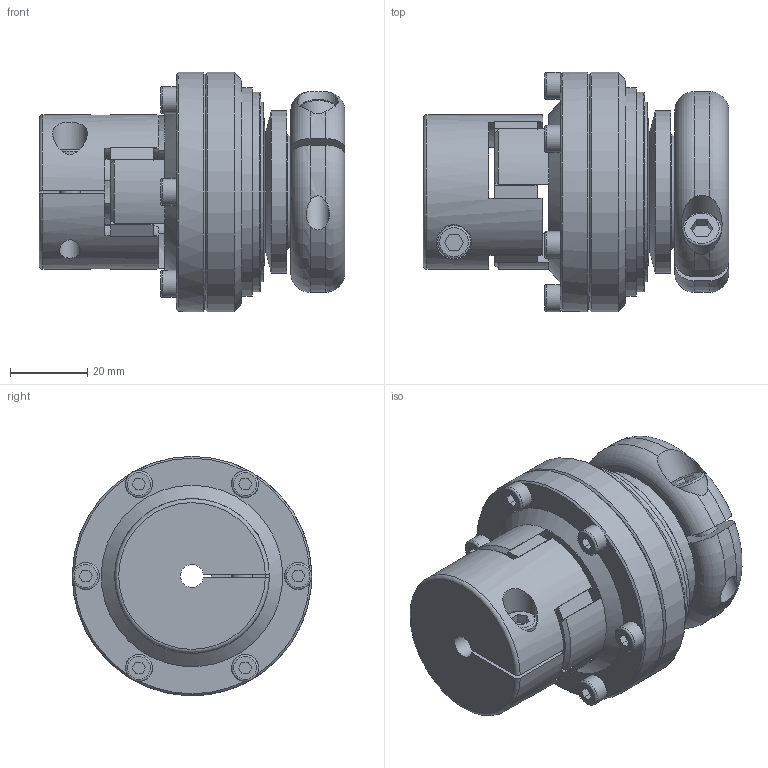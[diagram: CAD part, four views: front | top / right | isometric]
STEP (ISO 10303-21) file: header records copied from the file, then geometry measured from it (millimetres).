
FILE_DESCRIPTION(/* description */ ('Unknown'),/* implementation_level */ '2;1');
FILE_NAME(/* name */ 'SKVA-EK 12',/* time_stamp */ '2025-02-12T14:11:01+01:00',/* author */ ('Unknown'),/* organization */ ('Unknown'),/* preprocessor_version */ 'ST-DEVELOPER v18.102',/* originating_system */ 'Solid Edge',/* authorisation */ 'Unknown');
FILE_SCHEMA (('AUTOMOTIVE_DESIGN {1 0 10303 214 3 1 1}'));
Length unit declared in the file: millimetre
Products named in the file (1): SKVA-EK  12
Bounding box: 79.2 x 62 x 62 mm (x, y, z)
Volume: 129851.1 mm3; surface area: 31694.2 mm2
Topology: 1 solids, 3 shells, 221 faces, 598 edges, 385 vertices
Faces by surface type: plane 113, cylinder 43, bspline 33, cone 21, torus 11
Full cylindrical faces by diameter (mm): 5.4 x3, 6 x3, 7 x6, 8.5 x1, 9 x1, 10 x2, 10.5 x1, 20.31 x1, 24 x1, 30 x2, 42 x1, 51.7 x1, 54 x1, 62 x2
Entity records: 6975 total; most frequent: CARTESIAN_POINT 1858, ORIENTED_EDGE 1066, DIRECTION 956, EDGE_CURVE 533, VERTEX_POINT 366, AXIS2_PLACEMENT_3D 355, EDGE_LOOP 291, FACE_BOUND 291
